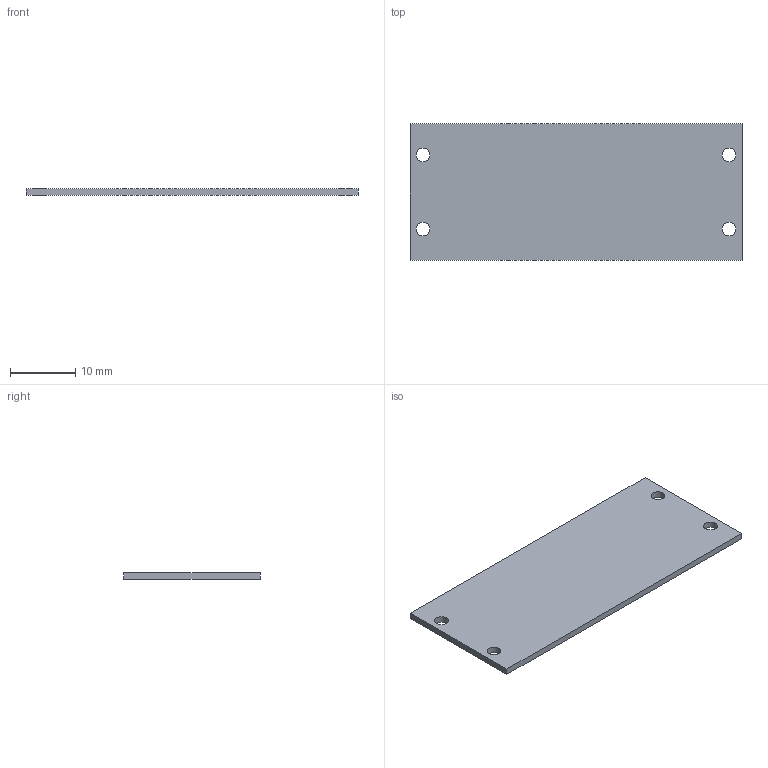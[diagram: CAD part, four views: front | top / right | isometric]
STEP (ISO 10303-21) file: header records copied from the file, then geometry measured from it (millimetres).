
FILE_DESCRIPTION(('Open CASCADE Model'),'2;1');
FILE_NAME('Open CASCADE Shape Model','2026-10-13T11:47:37',('Author'),( 'Open CASCADE'),'Open CASCADE STEP processor 7.8','Open CASCADE 7.8' ,'Unknown');
FILE_SCHEMA(('AUTOMOTIVE_DESIGN { 1 0 10303 214 1 1 1 1 }'));
Length unit declared in the file: millimetre
Products named in the file (1): Open CASCADE STEP translator 7.8 69
Bounding box: 51 x 21 x 1 mm (x, y, z)
Volume: 1057.1 mm3; surface area: 2284.7 mm2
Topology: 1 solids, 1 shells, 10 faces, 24 edges, 16 vertices
Faces by surface type: plane 6, cylinder 4
Full cylindrical faces by diameter (mm): 2.1 x4
Entity records: 658 total; most frequent: CARTESIAN_POINT 147, DIRECTION 94, LINE 56, VECTOR 56, ORIENTED_EDGE 48, PCURVE 48, DEFINITIONAL_REPRESENTATION 48, EDGE_CURVE 24
